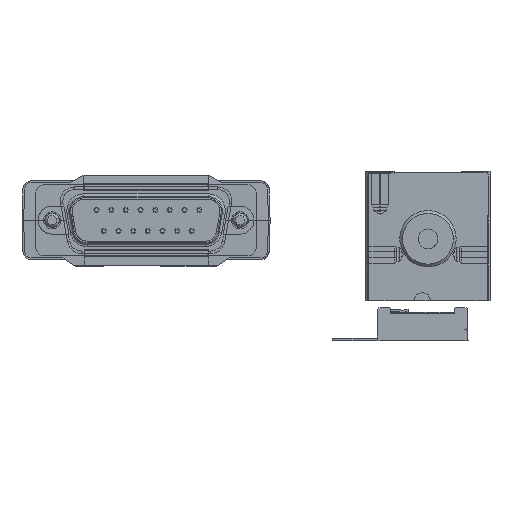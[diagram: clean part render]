
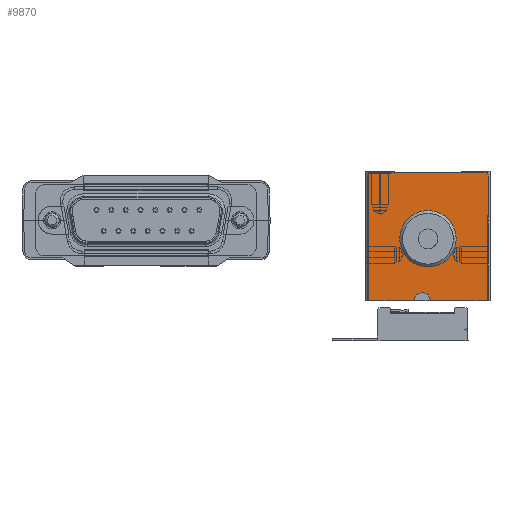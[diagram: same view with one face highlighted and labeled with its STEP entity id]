
A CAD part, front view. The second image highlights one B-rep face of the part: STEP entity #9870.
In plain terms, the highlighted planar face has unit normal (0, -1, 0) as drawn and (1, 0, 0) by its records, which use the part's own axes.
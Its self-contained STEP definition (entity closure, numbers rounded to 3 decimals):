
#1190=CARTESIAN_POINT('',(40.,22.,0.));
#1200=DIRECTION('',(0.,-1.,0.));
#1210=VECTOR('',#1200,1.);
#1220=LINE('',#1190,#1210);
#1230=CARTESIAN_POINT('',(40.,5.,0.));
#1240=VERTEX_POINT('',#1230);
#1250=CARTESIAN_POINT('',(40.,0.5,0.));
#1260=VERTEX_POINT('',#1250);
#1270=EDGE_CURVE('',#1240,#1260,#1220,.T.);
#4140=CARTESIAN_POINT('',(40.,0.5,-23.));
#4150=VERTEX_POINT('',#4140);
#4180=CARTESIAN_POINT('',(40.,0.,-23.));
#4190=DIRECTION('',(0.,1.,0.));
#4200=VECTOR('',#4190,1.);
#4210=LINE('',#4180,#4200);
#4220=CARTESIAN_POINT('',(40.,8.6,-23.));
#4230=VERTEX_POINT('',#4220);
#4240=EDGE_CURVE('',#4150,#4230,#4210,.T.);
#4460=CARTESIAN_POINT('',(40.,11.4,-23.));
#4470=VERTEX_POINT('',#4460);
#4500=CARTESIAN_POINT('',(40.,21.5,-23.));
#4510=VERTEX_POINT('',#4500);
#4520=EDGE_CURVE('',#4470,#4510,#4210,.T.);
#6440=CARTESIAN_POINT('',(40.,11.4,0.));
#6450=DIRECTION('',(0.,0.,1.));
#6460=VECTOR('',#6450,1.);
#6470=LINE('',#6440,#6460);
#6480=CARTESIAN_POINT('',(40.,11.4,-22.8));
#6490=VERTEX_POINT('',#6480);
#6500=EDGE_CURVE('',#4470,#6490,#6470,.T.);
#7170=CARTESIAN_POINT('',(40.,9.8,-22.8));
#7180=DIRECTION('',(-1.,0.,0.));
#7190=DIRECTION('',(0.,1.,0.));
#7200=AXIS2_PLACEMENT_3D('',#7170,#7180,#7190);
#7210=CIRCLE('',#7200,1.2);
#7220=CARTESIAN_POINT('',(40.,8.6,-22.8));
#7230=VERTEX_POINT('',#7220);
#7240=CARTESIAN_POINT('',(40.,9.8,-21.6));
#7250=VERTEX_POINT('',#7240);
#7260=EDGE_CURVE('',#7230,#7250,#7210,.T.);
#7490=CARTESIAN_POINT('',(40.,0.,-21.6));
#7500=DIRECTION('',(0.,-1.,0.));
#7510=VECTOR('',#7500,1.);
#7520=LINE('',#7490,#7510);
#7530=CARTESIAN_POINT('',(40.,10.2,-21.6));
#7540=VERTEX_POINT('',#7530);
#7550=EDGE_CURVE('',#7540,#7250,#7520,.T.);
#7750=CARTESIAN_POINT('',(40.,10.2,-22.8));
#7760=DIRECTION('',(-1.,0.,0.));
#7770=DIRECTION('',(0.,1.,0.));
#7780=AXIS2_PLACEMENT_3D('',#7750,#7760,#7770);
#7790=CIRCLE('',#7780,1.2);
#7800=EDGE_CURVE('',#7540,#6490,#7790,.T.);
#7930=CARTESIAN_POINT('',(40.,8.6,0.));
#7940=DIRECTION('',(0.,0.,-1.));
#7950=VECTOR('',#7940,1.);
#7960=LINE('',#7930,#7950);
#7970=EDGE_CURVE('',#7230,#4230,#7960,.T.);
#8080=CARTESIAN_POINT('',(40.,5.846,-7.9));
#8090=DIRECTION('',(0.,-1.,0.));
#8100=VECTOR('',#8090,1.);
#8110=LINE('',#8080,#8100);
#8120=CARTESIAN_POINT('',(40.,21.8,-7.9));
#8130=VERTEX_POINT('',#8120);
#8140=CARTESIAN_POINT('',(40.,21.5,-7.9));
#8150=VERTEX_POINT('',#8140);
#8160=EDGE_CURVE('',#8130,#8150,#8110,.T.);
#8890=CARTESIAN_POINT('',(40.,0.1,-0.8));
#8900=DIRECTION('',(1.,-0.,0.));
#8910=DIRECTION('',(0.,0.,-1.));
#8920=AXIS2_PLACEMENT_3D('',#8890,#8900,#8910);
#8930=PLANE('',#8920);
#8940=CARTESIAN_POINT('',(40.,20.9,-1.1));
#8950=DIRECTION('',(1.,0.,0.));
#8960=DIRECTION('',(0.,-1.,0.));
#8970=AXIS2_PLACEMENT_3D('',#8940,#8950,#8960);
#8980=CIRCLE('',#8970,0.9);
#8990=CARTESIAN_POINT('',(40.,21.8,-1.1));
#9000=VERTEX_POINT('',#8990);
#9010=CARTESIAN_POINT('',(40.,20.9,-0.2));
#9020=VERTEX_POINT('',#9010);
#9030=EDGE_CURVE('',#9000,#9020,#8980,.T.);
#9040=ORIENTED_EDGE('',*,*,#9030,.T.);
#9050=CARTESIAN_POINT('',(40.,21.8,-0.8));
#9060=DIRECTION('',(0.,0.,1.));
#9070=VECTOR('',#9060,1.);
#9080=LINE('',#9050,#9070);
#9090=EDGE_CURVE('',#8130,#9000,#9080,.T.);
#9100=ORIENTED_EDGE('',*,*,#9090,.T.);
#9110=ORIENTED_EDGE('',*,*,#8160,.F.);
#9120=CARTESIAN_POINT('',(40.,21.5,0.));
#9130=DIRECTION('',(0.,0.,1.));
#9140=VECTOR('',#9130,1.);
#9150=LINE('',#9120,#9140);
#9160=CARTESIAN_POINT('',(40.,21.5,-8.));
#9170=VERTEX_POINT('',#9160);
#9180=EDGE_CURVE('',#9170,#8150,#9150,.T.);
#9190=ORIENTED_EDGE('',*,*,#9180,.T.);
#9200=CARTESIAN_POINT('',(40.,21.5,-15.5));
#9210=DIRECTION('',(0.,0.,-1.));
#9220=VECTOR('',#9210,1.);
#9230=LINE('',#9200,#9220);
#9240=EDGE_CURVE('',#9170,#4510,#9230,.T.);
#9250=ORIENTED_EDGE('',*,*,#9240,.F.);
#9260=ORIENTED_EDGE('',*,*,#4520,.T.);
#9270=ORIENTED_EDGE('',*,*,#6500,.F.);
#9280=ORIENTED_EDGE('',*,*,#7800,.T.);
#9290=ORIENTED_EDGE('',*,*,#7550,.F.);
#9300=ORIENTED_EDGE('',*,*,#7260,.T.);
#9310=ORIENTED_EDGE('',*,*,#7970,.F.);
#9320=ORIENTED_EDGE('',*,*,#4240,.T.);
#9330=CARTESIAN_POINT('',(40.,0.5,-11.5));
#9340=DIRECTION('',(0.,0.,-1.));
#9350=VECTOR('',#9340,1.);
#9360=LINE('',#9330,#9350);
#9370=EDGE_CURVE('',#1260,#4150,#9360,.T.);
#9380=ORIENTED_EDGE('',*,*,#9370,.T.);
#9390=ORIENTED_EDGE('',*,*,#1270,.T.);
#9400=CARTESIAN_POINT('',(40.,5.,0.));
#9410=DIRECTION('',(0.,0.,-1.));
#9420=VECTOR('',#9410,1.);
#9430=LINE('',#9400,#9420);
#9440=CARTESIAN_POINT('',(40.,5.,-0.5));
#9450=VERTEX_POINT('',#9440);
#9460=EDGE_CURVE('',#1240,#9450,#9430,.T.);
#9470=ORIENTED_EDGE('',*,*,#9460,.F.);
#9480=CARTESIAN_POINT('',(40.,0.,-0.5));
#9490=DIRECTION('',(0.,-1.,0.));
#9500=VECTOR('',#9490,1.);
#9510=LINE('',#9480,#9500);
#9520=CARTESIAN_POINT('',(40.,5.05,-0.5));
#9530=VERTEX_POINT('',#9520);
#9540=EDGE_CURVE('',#9530,#9450,#9510,.T.);
#9550=ORIENTED_EDGE('',*,*,#9540,.T.);
#9560=CARTESIAN_POINT('',(40.,5.05,-0.8));
#9570=DIRECTION('',(0.,0.,1.));
#9580=VECTOR('',#9570,1.);
#9590=LINE('',#9560,#9580);
#9600=CARTESIAN_POINT('',(40.,5.05,-0.2));
#9610=VERTEX_POINT('',#9600);
#9620=EDGE_CURVE('',#9530,#9610,#9590,.T.);
#9630=ORIENTED_EDGE('',*,*,#9620,.F.);
#9640=CARTESIAN_POINT('',(40.,5.646,-0.2));
#9650=DIRECTION('',(0.,1.,0.));
#9660=VECTOR('',#9650,1.);
#9670=LINE('',#9640,#9660);
#9680=EDGE_CURVE('',#9610,#9020,#9670,.T.);
#9690=ORIENTED_EDGE('',*,*,#9680,.F.);
#9700=EDGE_LOOP('',(#9690,#9630,#9550,#9470,#9390,#9380,#9320,#9310,
#9300,#9290,#9280,#9270,#9260,#9250,#9190,#9110,#9100,#9040));
#9710=FACE_OUTER_BOUND('',#9700,.T.);
#9720=CARTESIAN_POINT('',(40.,11.,-12.));
#9730=DIRECTION('',(1.,0.,0.));
#9740=DIRECTION('',(0.,1.,0.));
#9750=AXIS2_PLACEMENT_3D('',#9720,#9730,#9740);
#9760=CIRCLE('',#9750,5.);
#9770=CARTESIAN_POINT('',(40.,16.,-12.));
#9780=VERTEX_POINT('',#9770);
#9790=CARTESIAN_POINT('',(40.,6.,-12.));
#9800=VERTEX_POINT('',#9790);
#9810=EDGE_CURVE('',#9780,#9800,#9760,.T.);
#9820=ORIENTED_EDGE('',*,*,#9810,.F.);
#9830=EDGE_CURVE('',#9800,#9780,#9760,.T.);
#9840=ORIENTED_EDGE('',*,*,#9830,.F.);
#9850=EDGE_LOOP('',(#9840,#9820));
#9860=FACE_BOUND('',#9850,.T.);
#9870=ADVANCED_FACE('',(#9710,#9860),#8930,.T.);
